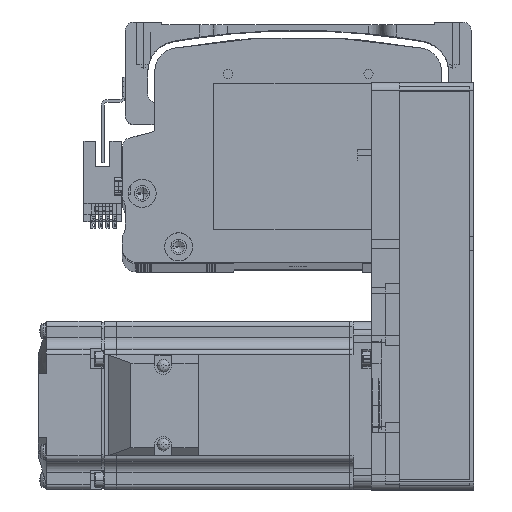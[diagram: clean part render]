
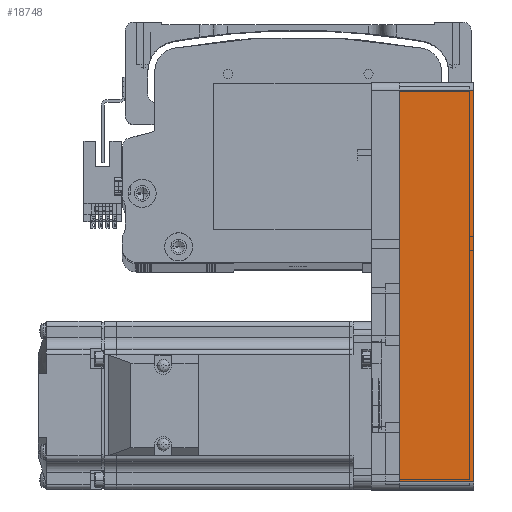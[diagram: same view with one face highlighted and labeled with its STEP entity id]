
A CAD part, top view. The second image highlights one B-rep face of the part: STEP entity #18748.
In plain terms, the highlighted planar face has unit normal (0, 0, 1) as drawn and (0, -1, 0) by its records, which use the part's own axes.
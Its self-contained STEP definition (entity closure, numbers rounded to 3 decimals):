
#521 = VECTOR ( 'NONE', #5039, 1000. ) ;
#3077 = CARTESIAN_POINT ( 'NONE',  ( 72.5, -30., 0. ) ) ;
#3213 = CARTESIAN_POINT ( 'NONE',  ( 69.5, -30., 26.5 ) ) ;
#4450 = ORIENTED_EDGE ( 'NONE', *, *, #75583, .T. ) ;
#5039 = DIRECTION ( 'NONE',  ( 1., 0., 0. ) ) ;
#6280 = ORIENTED_EDGE ( 'NONE', *, *, #42050, .F. ) ;
#7622 = VERTEX_POINT ( 'NONE', #22068 ) ;
#9620 = DIRECTION ( 'NONE',  ( 0., 0., 1. ) ) ;
#10676 = VECTOR ( 'NONE', #57956, 1000. ) ;
#11978 = VERTEX_POINT ( 'NONE', #3213 ) ;
#12165 = PLANE ( 'NONE',  #64537 ) ;
#17540 = EDGE_CURVE ( 'NONE', #7622, #19273, #58292, .T. ) ;
#18748 = ADVANCED_FACE ( 'NONE', ( #88115 ), #12165, .F. ) ;
#18767 = ORIENTED_EDGE ( 'NONE', *, *, #22908, .T. ) ;
#18792 = LINE ( 'NONE', #66534, #521 ) ;
#19273 = VERTEX_POINT ( 'NONE', #26203 ) ;
#19394 = CARTESIAN_POINT ( 'NONE',  ( 72.5, -30., 26.5 ) ) ;
#21353 = EDGE_LOOP ( 'NONE', ( #18767, #4450, #6280, #64844 ) ) ;
#21901 = VECTOR ( 'NONE', #60328, 1000. ) ;
#22068 = CARTESIAN_POINT ( 'NONE',  ( -69.5, -30., 26.5 ) ) ;
#22908 = EDGE_CURVE ( 'NONE', #19273, #59122, #51511, .T. ) ;
#26203 = CARTESIAN_POINT ( 'NONE',  ( -69.5, -30., 0. ) ) ;
#26313 = DIRECTION ( 'NONE',  ( -1., 0., 0. ) ) ;
#28219 = VECTOR ( 'NONE', #9620, 1000. ) ;
#37019 = CARTESIAN_POINT ( 'NONE',  ( 69.5, -30., 26.5 ) ) ;
#42050 = EDGE_CURVE ( 'NONE', #7622, #11978, #18792, .T. ) ;
#46612 = CARTESIAN_POINT ( 'NONE',  ( -69.5, -30., 26.5 ) ) ;
#51511 = LINE ( 'NONE', #3077, #10676 ) ;
#57956 = DIRECTION ( 'NONE',  ( 1., 0., 0. ) ) ;
#58292 = LINE ( 'NONE', #46612, #21901 ) ;
#59122 = VERTEX_POINT ( 'NONE', #61757 ) ;
#60328 = DIRECTION ( 'NONE',  ( 0., 0., -1. ) ) ;
#61757 = CARTESIAN_POINT ( 'NONE',  ( 69.5, -30., 0. ) ) ;
#64537 = AXIS2_PLACEMENT_3D ( 'NONE', #19394, #67363, #26313 ) ;
#64632 = LINE ( 'NONE', #37019, #28219 ) ;
#64844 = ORIENTED_EDGE ( 'NONE', *, *, #17540, .T. ) ;
#66534 = CARTESIAN_POINT ( 'NONE',  ( 72.5, -30., 26.5 ) ) ;
#67363 = DIRECTION ( 'NONE',  ( 0., 1., 0. ) ) ;
#75583 = EDGE_CURVE ( 'NONE', #59122, #11978, #64632, .T. ) ;
#88115 = FACE_OUTER_BOUND ( 'NONE', #21353, .T. ) ;
